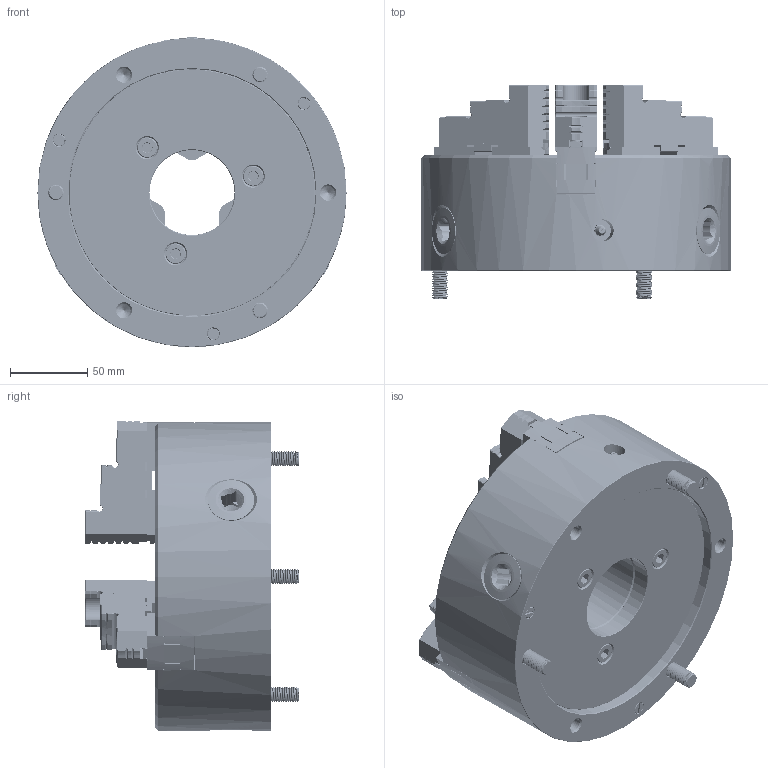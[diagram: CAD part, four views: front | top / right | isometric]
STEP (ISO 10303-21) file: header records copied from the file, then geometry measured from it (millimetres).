
FILE_DESCRIPTION (( 'STEP AP214' ), '1' );
FILE_NAME ('3-813-0800P REV A.STEP', '2024-10-25T15:43:23', ( '' ), ( '' ), 'SwSTEP 2.0', 'SolidWorks 2020', '' );
FILE_SCHEMA (( 'AUTOMOTIVE_DESIGN' ));
Length unit declared in the file: millimetre
Products named in the file (20): 3-897-10080_3-897-10080; 3-887-308P_FOR WEBSITE; 0.375-16 X0.75 SHCS_0.375-16 X0.75 SHCS; 3-885-308P_JAW1-FOR-WEBSITE; 3-891-308P_3-891-308P-JAW1-LASERMARKING; C-CK8-COVER_C-CK8-COVER; 3-813-0800P REV A; C-CK8-BDY3JFM_BODY-813; 3-885-308P_JAW2-FOR-WEBSITE; 3-899-310P_3-899-310P; 3-883-308P_TOP JAW3; 3-891-308P_3-891-308P-JAW2-LASERMARKING; 3-886-308P_FOR WEBSITE; 0.375-16 X1.25 SHCS_0.375-16 X1.25 SHCS; 3-883-308P_TOP JAW2; 3-891-308P_3-891-308P-JAW3-LASERMARKING; 3-809-906P_3-809-906P; 3-888-910P_3-888-910P; 3-883-308P_TOP JAW1; 3-885-308P_JAW3-FOR-WEBSITE
Assembly tree (31 placements, depth 3):
  3-813-0800P REV A
    C-CK8-BDY3JFM_BODY-813
    3-887-308P_FOR WEBSITE
    3-886-308P_FOR WEBSITE  x3
    3-888-910P_3-888-910P  x3
    C-CK8-COVER_C-CK8-COVER
    3-899-310P_3-899-310P  x3
    3-891-308P_3-891-308P-JAW1-LASERMARKING
      3-885-308P_JAW1-FOR-WEBSITE
      3-883-308P_TOP JAW1
      0.375-16 X1.25 SHCS_0.375-16 X1.25 SHCS
      0.375-16 X0.75 SHCS_0.375-16 X0.75 SHCS
    3-891-308P_3-891-308P-JAW2-LASERMARKING
      3-885-308P_JAW2-FOR-WEBSITE
      3-883-308P_TOP JAW2
      0.375-16 X1.25 SHCS_0.375-16 X1.25 SHCS
      0.375-16 X0.75 SHCS_0.375-16 X0.75 SHCS
    3-891-308P_3-891-308P-JAW3-LASERMARKING
      3-885-308P_JAW3-FOR-WEBSITE
      3-883-308P_TOP JAW3
      0.375-16 X1.25 SHCS_0.375-16 X1.25 SHCS
      0.375-16 X0.75 SHCS_0.375-16 X0.75 SHCS
    3-809-906P_3-809-906P
    3-897-10080_3-897-10080  x3
Bounding box: 200 x 138.15 x 200.7 mm (x, y, z)
Volume: 1966269.2 mm3; surface area: 392148.7 mm2
Topology: 28 solids, 28 shells, 3541 faces, 9395 edges, 6033 vertices
Faces by surface type: plane 1332, cylinder 970, cone 623, bspline 506, torus 91, sphere 19
Entity records: 128956 total; most frequent: CARTESIAN_POINT 63282, ORIENTED_EDGE 14862, DIRECTION 11297, EDGE_CURVE 7431, VERTEX_POINT 4813, LINE 3843, VECTOR 3843, AXIS2_PLACEMENT_3D 3727
